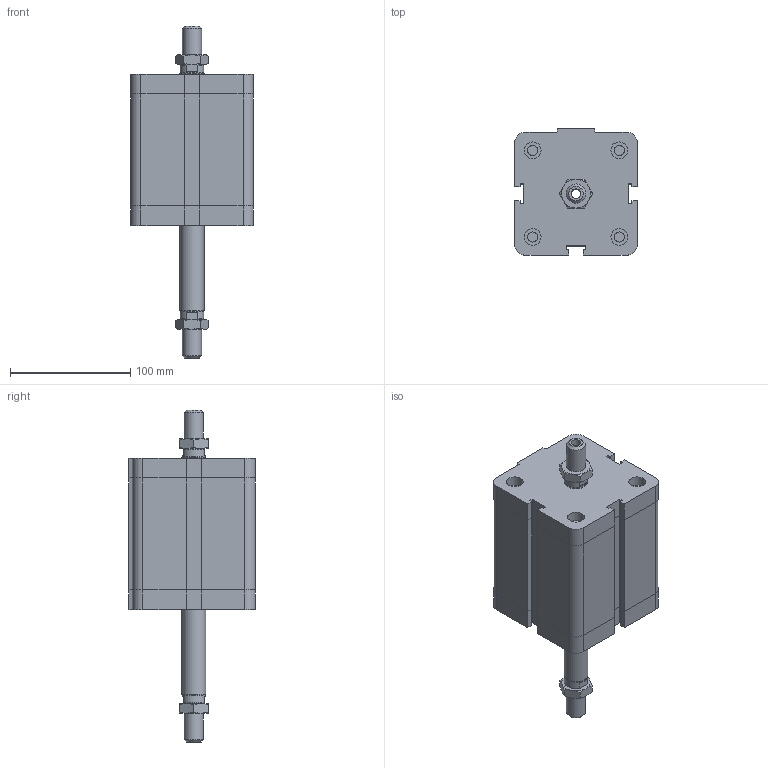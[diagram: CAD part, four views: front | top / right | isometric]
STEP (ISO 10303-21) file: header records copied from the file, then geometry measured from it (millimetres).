
FILE_DESCRIPTION((''),'2;1');
FILE_NAME('I:\Area Tecnica\Disegni\VARIE-3D\Componenti\EUROPE\15##_###_####_05_#\1561_80_0070_05_1.iam.stp','2009-04-20T14:57:56',(''),(''),'Autodesk Inventor 2009','Autodesk Inventor 2009','');
FILE_SCHEMA(('AUTOMOTIVE_DESIGN { 1 0 10303 214 1 1 1 1 }'));
Length unit declared in the file: millimetre
Products named in the file (4): 1561_80_0070_05_1; 1561_80_0070_03_1_C; 1561_80_0070_05_1_S; DBFM16
Assembly tree (4 placements, depth 2):
  1561_80_0070_05_1
    1561_80_0070_03_1_C
    1561_80_0070_05_1_S
    DBFM16  x2
Bounding box: 102 x 105 x 276 mm (x, y, z)
Volume: 1288699.9 mm3; surface area: 120217.3 mm2
Topology: 4 solids, 4 shells, 223 faces, 486 edges, 291 vertices
Faces by surface type: plane 129, cone 37, bspline 32, cylinder 25
Full cylindrical faces by diameter (mm): 8.376 x4, 14 x4, 14.5 x1, 16 x1, 19.5 x2, 20 x1
Entity records: 5484 total; most frequent: CARTESIAN_POINT 1227, DIRECTION 808, ORIENTED_EDGE 776, EDGE_CURVE 388, AXIS2_PLACEMENT_3D 275, EDGE_LOOP 262, VECTOR 258, LINE 258
